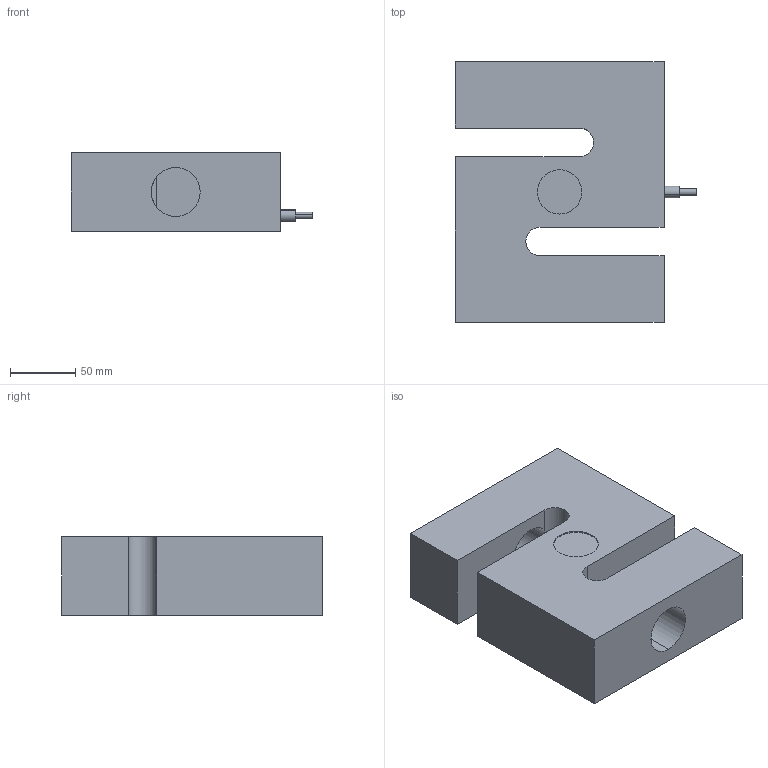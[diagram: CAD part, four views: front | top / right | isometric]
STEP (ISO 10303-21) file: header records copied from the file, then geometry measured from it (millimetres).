
FILE_DESCRIPTION (( 'STEP AP214' ), '1' );
FILE_NAME ('H3 20t.STEP', '2014-03-07T08:45:14', ( 'Gebruiker' ), ( '' ), 'SwSTEP 2.0', 'SolidWorks 2011', '' );
FILE_SCHEMA (( 'AUTOMOTIVE_DESIGN' ));
Length unit declared in the file: millimetre
Products named in the file (1): H3 20t
Bounding box: 185 x 200 x 60 mm (x, y, z)
Volume: 1532939.3 mm3; surface area: 144181.2 mm2
Topology: 4 solids, 4 shells, 40 faces, 95 edges, 62 vertices
Faces by surface type: plane 21, cylinder 19
Entity records: 1686 total; most frequent: DIRECTION 219, CARTESIAN_POINT 198, ORIENTED_EDGE 190, EDGE_CURVE 95, AXIS2_PLACEMENT_3D 83, VERTEX_POINT 62, LINE 53, VECTOR 53
